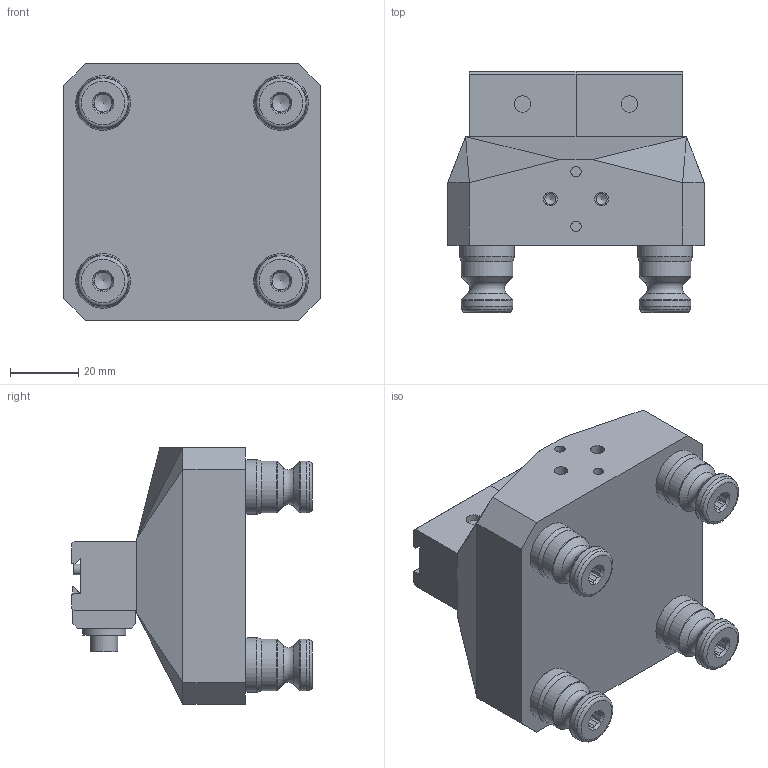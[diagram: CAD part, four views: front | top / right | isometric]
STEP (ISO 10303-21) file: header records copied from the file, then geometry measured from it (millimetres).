
FILE_DESCRIPTION (( 'STEP AP214' ), '1' );
FILE_NAME ('A52-2D05125_WEBSITE.STEP', '2025-08-12T23:25:14', ( '' ), ( '' ), 'SwSTEP 2.0', 'SolidWorks 2024', '' );
FILE_SCHEMA (( 'AUTOMOTIVE_DESIGN' ));
Length unit declared in the file: inch
Products named in the file (14): 0190X0750.SHCS_WEBSITE_0190X0750.SHCS; D05125-1_WEBSITE_D05125-1; 0236X0256.SPRING_WEBSITE; A52-2D05125_WEBSITE; 0125X0375.DP_WEBSITE_0125X0375.DP; M8X20.FPSS_WEBSITE_93245A145; PS16F-1_WEBSITE_HARD TURN; PS16F_WEBSITE; 0190X1000.SHCS_WEBSITE_0190X1000.SHCS; A52-D05125-1_WEBSITE; 01900X0500.FW_WEBSITE_DEFAULT; 0125X0250.DP_WEBSITE_0125X0250.DP; CLW10_WEBSITE_CLW10; D05125_WEBSITE
Assembly tree (19 placements, depth 3):
  A52-2D05125_WEBSITE
    A52-D05125-1_WEBSITE
    PS16F_WEBSITE  x4
      PS16F-1_WEBSITE_HARD TURN
      M8X20.FPSS_WEBSITE_93245A145
    D05125_WEBSITE  x2
      D05125-1_WEBSITE_D05125-1
      CLW10_WEBSITE_CLW10
      01900X0500.FW_WEBSITE_DEFAULT
      0125X0375.DP_WEBSITE_0125X0375.DP
      0125X0250.DP_WEBSITE_0125X0250.DP
      0236X0256.SPRING_WEBSITE
      0190X1000.SHCS_WEBSITE_0190X1000.SHCS
      0190X0750.SHCS_WEBSITE_0190X0750.SHCS
Bounding box: 75 x 70.36 x 75 mm (x, y, z)
Volume: 186187 mm3; surface area: 47251.9 mm2
Topology: 29 solids, 29 shells, 520 faces, 1148 edges, 718 vertices
Faces by surface type: plane 288, cylinder 104, cone 98, torus 28, bspline 2
Full cylindrical faces by diameter (mm): 3.023 x2, 3.175 x12, 3.205 x6, 3.3 x2, 4 x2, 4.039 x6, 4.826 x8, 4.978 x4, 5.159 x2, 5.182 x2, 5.25 x4, 6.35 x2, 6.8 x8, 7.925 x6, 8 x8, 8.509 x4, 11.991 x4, 12.017 x4, 12.7 x2, 15.202 x8, 15.997 x4
Entity records: 6713 total; most frequent: CARTESIAN_POINT 1562, DIRECTION 982, ORIENTED_EDGE 738, AXIS2_PLACEMENT_3D 394, EDGE_CURVE 369, EDGE_LOOP 346, FACE_OUTER_BOUND 285, VERTEX_POINT 273
